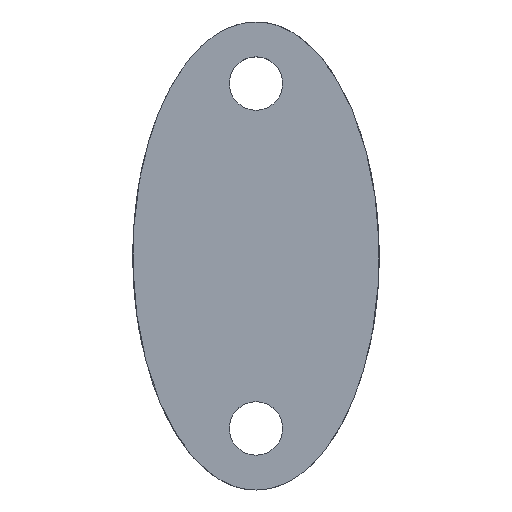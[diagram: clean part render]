
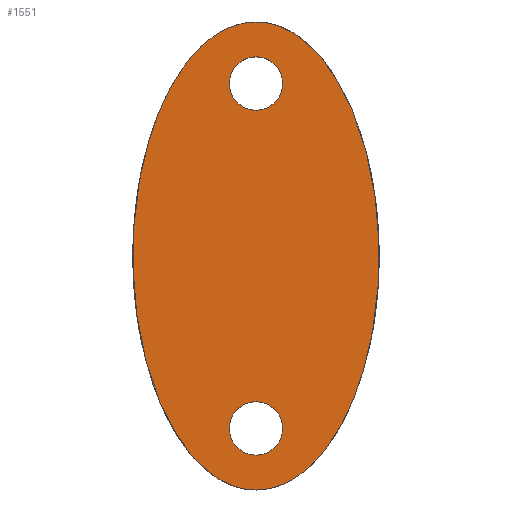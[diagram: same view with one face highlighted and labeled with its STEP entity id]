
A CAD part, top view. The second image highlights one B-rep face of the part: STEP entity #1551.
In plain terms, the highlighted planar face has unit normal (0, 0, 1).
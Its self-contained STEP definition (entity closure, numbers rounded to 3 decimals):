
#384=CARTESIAN_POINT('',(0.,-28.5,14.5));
#385=CARTESIAN_POINT('',(0.884,-28.5,14.5));
#386=CARTESIAN_POINT('',(2.718,-28.202,14.5));
#387=CARTESIAN_POINT('',(5.538,-26.689,14.5));
#388=CARTESIAN_POINT('',(8.257,-24.035,14.5));
#389=CARTESIAN_POINT('',(10.683,-20.298,14.5));
#390=CARTESIAN_POINT('',(12.65,-15.688,14.5));
#391=CARTESIAN_POINT('',(13.814,-11.384,14.5));
#392=CARTESIAN_POINT('',(14.445,-7.843,14.5));
#393=CARTESIAN_POINT('',(14.773,-5.18,14.5));
#394=CARTESIAN_POINT('',(14.93,-2.989,14.5));
#395=CARTESIAN_POINT('',(14.99,-1.266,14.5));
#396=CARTESIAN_POINT('',(15.005,0.,14.5));
#397=CARTESIAN_POINT('',(14.99,1.266,14.5));
#398=CARTESIAN_POINT('',(14.93,2.989,14.5));
#399=CARTESIAN_POINT('',(14.773,5.18,14.5));
#400=CARTESIAN_POINT('',(14.445,7.843,14.5));
#401=CARTESIAN_POINT('',(13.814,11.384,14.5));
#402=CARTESIAN_POINT('',(12.65,15.688,14.5));
#403=CARTESIAN_POINT('',(10.683,20.298,14.5));
#404=CARTESIAN_POINT('',(8.257,24.035,14.5));
#405=CARTESIAN_POINT('',(5.538,26.689,14.5));
#406=CARTESIAN_POINT('',(2.718,28.202,14.5));
#407=CARTESIAN_POINT('',(0.884,28.5,14.5));
#408=CARTESIAN_POINT('',(0.,28.5,14.5));
#681=CARTESIAN_POINT('',(0.,21.,14.5));
#682=DIRECTION('',(0.,0.,1.));
#683=DIRECTION('',(0.,1.,0.));
#684=AXIS2_PLACEMENT_3D('',#681,#682,#683);
#686=CARTESIAN_POINT('',(0.,21.,14.5));
#687=DIRECTION('',(0.,0.,1.));
#688=DIRECTION('',(0.,-1.,0.));
#689=AXIS2_PLACEMENT_3D('',#686,#687,#688);
#691=CARTESIAN_POINT('',(0.,-21.,14.5));
#692=DIRECTION('',(0.,0.,1.));
#693=DIRECTION('',(0.,1.,0.));
#694=AXIS2_PLACEMENT_3D('',#691,#692,#693);
#696=CARTESIAN_POINT('',(0.,-21.,14.5));
#697=DIRECTION('',(0.,0.,1.));
#698=DIRECTION('',(0.,-1.,0.));
#699=AXIS2_PLACEMENT_3D('',#696,#697,#698);
#701=CARTESIAN_POINT('',(0.,28.5,14.5));
#702=CARTESIAN_POINT('',(-0.884,28.5,14.5));
#703=CARTESIAN_POINT('',(-2.718,28.202,14.5));
#704=CARTESIAN_POINT('',(-5.538,26.689,14.5));
#705=CARTESIAN_POINT('',(-8.257,24.035,14.5));
#706=CARTESIAN_POINT('',(-10.683,20.298,14.5));
#707=CARTESIAN_POINT('',(-12.65,15.688,14.5));
#708=CARTESIAN_POINT('',(-13.814,11.384,14.5));
#709=CARTESIAN_POINT('',(-14.445,7.843,14.5));
#710=CARTESIAN_POINT('',(-14.773,5.18,14.5));
#711=CARTESIAN_POINT('',(-14.93,2.989,14.5));
#712=CARTESIAN_POINT('',(-14.99,1.266,14.5));
#713=CARTESIAN_POINT('',(-15.005,0.,14.5));
#714=CARTESIAN_POINT('',(-14.99,-1.266,14.5));
#715=CARTESIAN_POINT('',(-14.93,-2.989,14.5));
#716=CARTESIAN_POINT('',(-14.773,-5.18,14.5));
#717=CARTESIAN_POINT('',(-14.445,-7.843,14.5));
#718=CARTESIAN_POINT('',(-13.814,-11.384,14.5));
#719=CARTESIAN_POINT('',(-12.65,-15.688,14.5));
#720=CARTESIAN_POINT('',(-10.683,-20.298,14.5));
#721=CARTESIAN_POINT('',(-8.257,-24.035,14.5));
#722=CARTESIAN_POINT('',(-5.538,-26.689,14.5));
#723=CARTESIAN_POINT('',(-2.718,-28.202,14.5));
#724=CARTESIAN_POINT('',(-0.884,-28.5,14.5));
#725=CARTESIAN_POINT('',(0.,-28.5,14.5));
#947=VERTEX_POINT('',#701);
#948=VERTEX_POINT('',#725);
#949=CARTESIAN_POINT('',(0.,24.25,14.5));
#950=CARTESIAN_POINT('',(0.,17.75,14.5));
#951=VERTEX_POINT('',#949);
#952=VERTEX_POINT('',#950);
#953=CARTESIAN_POINT('',(0.,-17.75,14.5));
#954=CARTESIAN_POINT('',(0.,-24.25,14.5));
#955=VERTEX_POINT('',#953);
#956=VERTEX_POINT('',#954);
#1529=CARTESIAN_POINT('',(0.,0.,14.5));
#1530=DIRECTION('',(0.,0.,1.));
#1531=DIRECTION('',(-1.,0.,0.));
#1532=AXIS2_PLACEMENT_3D('',#1529,#1530,#1531);
#1533=PLANE('',#1532);
#1534=ORIENTED_EDGE('',*,*,#1325,.F.);
#1536=ORIENTED_EDGE('',*,*,#1535,.F.);
#1537=EDGE_LOOP('',(#1534,#1536));
#1538=FACE_OUTER_BOUND('',#1537,.F.);
#1540=ORIENTED_EDGE('',*,*,#1539,.T.);
#1542=ORIENTED_EDGE('',*,*,#1541,.T.);
#1543=EDGE_LOOP('',(#1540,#1542));
#1544=FACE_BOUND('',#1543,.F.);
#1546=ORIENTED_EDGE('',*,*,#1545,.T.);
#1548=ORIENTED_EDGE('',*,*,#1547,.T.);
#1549=EDGE_LOOP('',(#1546,#1548));
#1550=FACE_BOUND('',#1549,.F.);
#1551=ADVANCED_FACE('',(#1538,#1544,#1550),#1533,.T.);
#409=B_SPLINE_CURVE_WITH_KNOTS('',3,(#384,#385,#386,#387,#388,#389,#390,#391,
#392,#393,#394,#395,#396,#397,#398,#399,#400,#401,#402,#403,#404,#405,#406,#407,
#408),.UNSPECIFIED.,.F.,.F.,(4,1,1,1,1,1,1,1,1,1,1,1,1,1,1,1,1,1,1,1,1,1,4),(
0.,0.063,0.125,0.188,0.25,0.313,0.375,0.406,0.438,
0.469,0.484,0.5,0.516,0.531,0.563,0.594,0.625,
0.688,0.75,0.813,0.875,0.938,1.),.UNSPECIFIED.);
#685=CIRCLE('',#684,3.25);
#690=CIRCLE('',#689,3.25);
#695=CIRCLE('',#694,3.25);
#700=CIRCLE('',#699,3.25);
#726=B_SPLINE_CURVE_WITH_KNOTS('',3,(#701,#702,#703,#704,#705,#706,#707,#708,
#709,#710,#711,#712,#713,#714,#715,#716,#717,#718,#719,#720,#721,#722,#723,#724,
#725),.UNSPECIFIED.,.F.,.F.,(4,1,1,1,1,1,1,1,1,1,1,1,1,1,1,1,1,1,1,1,1,1,4),(
0.,0.063,0.125,0.188,0.25,0.313,0.375,0.406,0.438,
0.469,0.484,0.5,0.516,0.531,0.563,0.594,0.625,
0.688,0.75,0.813,0.875,0.938,1.),.UNSPECIFIED.);
#1325=EDGE_CURVE('',#948,#947,#409,.T.);
#1535=EDGE_CURVE('',#947,#948,#726,.T.);
#1539=EDGE_CURVE('',#951,#952,#685,.T.);
#1541=EDGE_CURVE('',#952,#951,#690,.T.);
#1545=EDGE_CURVE('',#955,#956,#695,.T.);
#1547=EDGE_CURVE('',#956,#955,#700,.T.);
